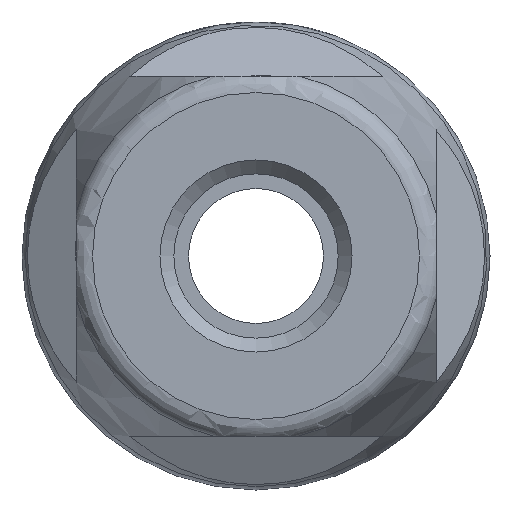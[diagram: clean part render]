
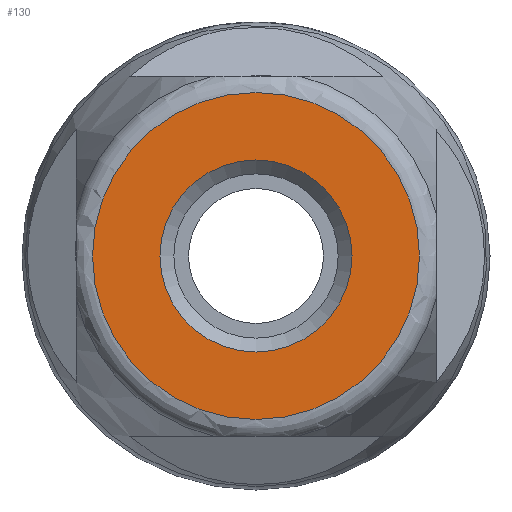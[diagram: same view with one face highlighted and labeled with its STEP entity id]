
A CAD part, front view. The second image highlights one B-rep face of the part: STEP entity #130.
In plain terms, the highlighted planar face has unit normal (0, -1, 0).
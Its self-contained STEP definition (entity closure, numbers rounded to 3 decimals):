
#130=ADVANCED_FACE('',(#194,#195),#173,.T.);
#173=PLANE('',#631);
#194=FACE_BOUND('',#243,.T.);
#195=FACE_BOUND('',#244,.T.);
#243=EDGE_LOOP('',(#311));
#244=EDGE_LOOP('',(#312));
#311=ORIENTED_EDGE('',*,*,#521,.T.);
#312=ORIENTED_EDGE('',*,*,#522,.T.);
#463=VERTEX_POINT('',#889);
#464=VERTEX_POINT('',#891);
#521=EDGE_CURVE('',#463,#463,#597,.T.);
#522=EDGE_CURVE('',#464,#464,#598,.T.);
#597=CIRCLE('',#629,18.167);
#598=CIRCLE('',#630,10.668);
#629=AXIS2_PLACEMENT_3D('',#888,#713,#714);
#630=AXIS2_PLACEMENT_3D('',#890,#715,#716);
#631=AXIS2_PLACEMENT_3D('',#892,#717,#718);
#713=DIRECTION('',(0.,-1.,0.));
#714=DIRECTION('',(0.,0.,-1.));
#715=DIRECTION('',(0.,1.,0.));
#716=DIRECTION('',(0.,0.,-1.));
#717=DIRECTION('',(0.,-1.,0.));
#718=DIRECTION('',(0.,0.,-1.));
#888=CARTESIAN_POINT('',(0.,-60.,0.));
#889=CARTESIAN_POINT('',(0.,-60.,-18.167));
#890=CARTESIAN_POINT('',(0.,-60.,0.));
#891=CARTESIAN_POINT('',(0.,-60.,-10.668));
#892=CARTESIAN_POINT('',(0.,-60.,0.));
